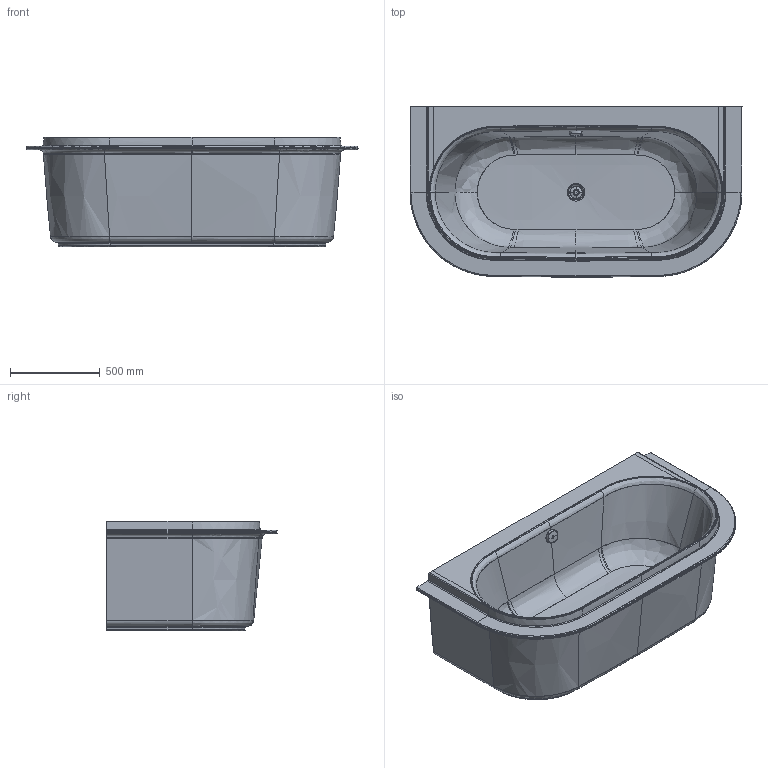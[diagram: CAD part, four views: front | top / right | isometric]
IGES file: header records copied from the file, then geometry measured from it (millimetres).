
Global section: file name: d:\users\matthias.isele\Desktop\Planungsdaten_erstellen\W&W\Vitrium\700702\3D\700702.igs; native system: Rhinoceros ( Sep 13 2016 ); preprocessor: Trout Lake IGES 012 Sep 13 2016; date: 241115.104559; units: millimetre
Bounding box: 1850 x 949.23 x 610 mm (x, y, z)
Surface area: 9730834.3 mm2 (no closed solid volume)
Topology: 0 solids, 0 shells, 690 faces, 6289 edges, 6269 vertices
Faces by surface type: bspline 690
